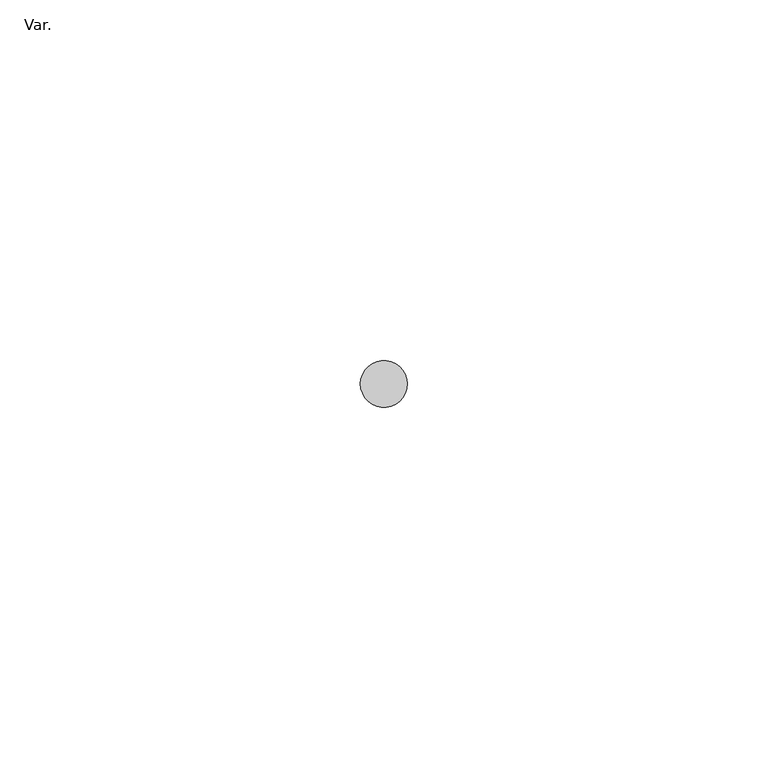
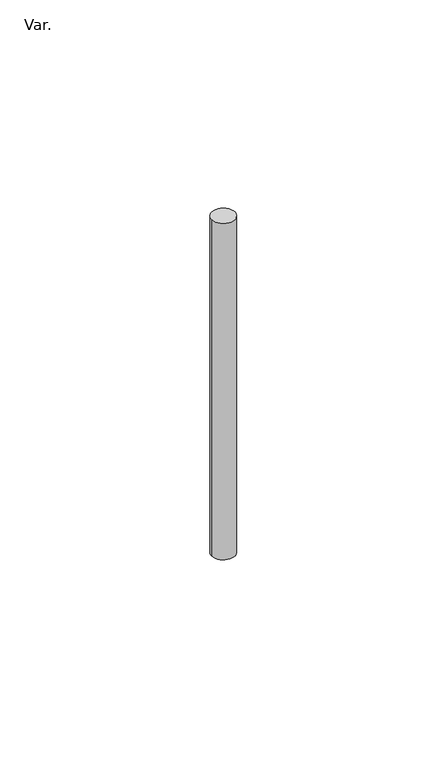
"""IFC4 building model written with IfcOpenShell, lengths in millimetres: pipe fitting geometry, AmancoWavin_ConexõesdeTubos_QSZNãoUsarBarra : Var.."""

from ifc_helpers import new_model, si_unit, point, origin, origin_with_axes, origin_2d, place, context, project, spatial, circle_curve, trimmed, segment, composite_curve, outline, extrude, source, transform, mapped, element, save


def var_11255891(model_context):
    return source(origin(), model_context, "Body", "SweptSolid", [
        extrude(outline(composite_curve([segment(trimmed(circle_curve(origin_2d(), 3.254375), [point((-3.254375, 0.0))], [point((3.254375, 0.0))], False, "CARTESIAN"), True, "CONTINUOUS"), segment(trimmed(circle_curve(origin_2d(), 3.254375), [point((3.254375, 0.0))], [point((-3.254375, 0.0))], False, "CARTESIAN"), True, "CONTINUOUS")], self_intersect=False)), origin_with_axes(), (0.0, 0.0, 1.0), 100.0),
    ])


if __name__ == "__main__":
    model = new_model("IFC4")
    model_context = context("Model", 3, world=origin())
    ifc_project = project(units=[si_unit("LENGTHUNIT", "METRE", prefix="MILLI")], contexts=[model_context])
    site = spatial("IfcSite", under=ifc_project)
    building = spatial("IfcBuilding", under=site)
    placement = place(None, origin())
    var_shape = var_11255891(model_context)
    element("IfcPipeFitting", 1, ObjectType="AmancoWavin_ConexõesdeTubos_QSZNãoUsarBarra : Var.", at=placement, inside=building, context=model_context, shape_type="MappedRepresentation", body=[
        mapped(var_shape, transform((0.0, 0.0, 0.0), x_axis=(1.0, 0.0, 0.0), y_axis=(0.0, 1.0, 0.0), z_axis=(0.0, 0.0, 1.0))),
    ])
    save(model, "model.ifc")
